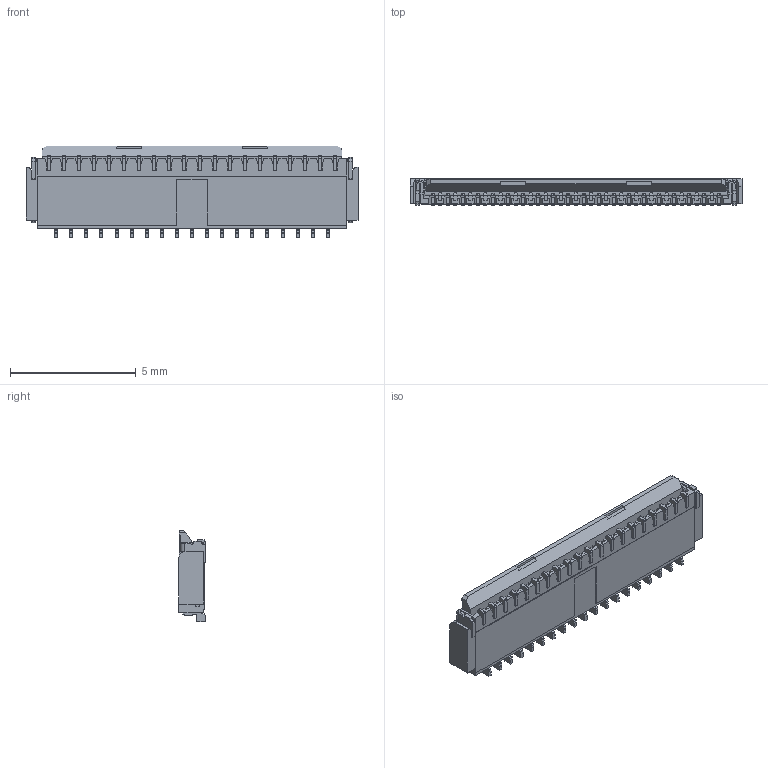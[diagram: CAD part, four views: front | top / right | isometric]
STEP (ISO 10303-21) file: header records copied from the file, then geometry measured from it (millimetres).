
FILE_DESCRIPTION(/* description */ ('Unknown'),/* implementation_level */ '2;1');
FILE_NAME(/* name */ 'S-51607-039xx-xxx',/* time_stamp */ '2020-08-10T15:14:20+08:00',/* author */ ('Unknown'),/* organization */ ('Unknown'),/* preprocessor_version */ 'ST-DEVELOPER v16.7',/* originating_system */ 'DEX',/* authorisation */ $);
FILE_SCHEMA (('AUTOMOTIVE_DESIGN {1 0 10303 214 3 1 1}'));
Products named in the file (1): S-51607-039xx-xxx
Bounding box: 13.2 x 1.06 x 3.63 mm (x, y, z)
Volume: 30.3 mm3; surface area: 238.2 mm2
Topology: 2 solids, 2 shells, 3302 faces, 9758 edges, 6730 vertices
Faces by surface type: plane 2542, cylinder 758, cone 2
Entity records: 129938 total; most frequent: CARTESIAN_POINT 19650, ORIENTED_EDGE 19058, DIRECTION 17947, EDGE_CURVE 9529, LINE 7969, VECTOR 7969, VERTEX_POINT 6272, AXIS2_PLACEMENT_3D 4989
